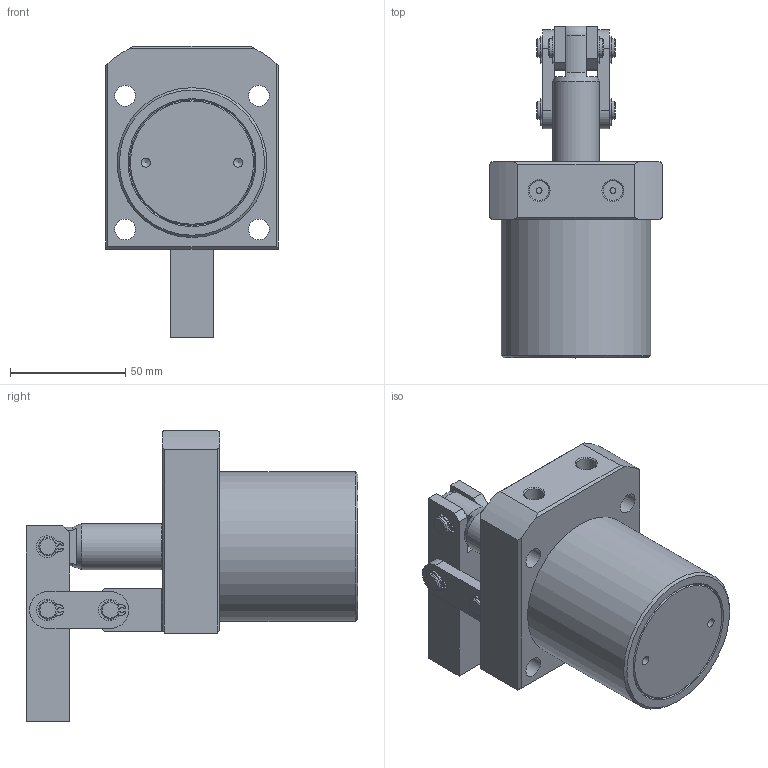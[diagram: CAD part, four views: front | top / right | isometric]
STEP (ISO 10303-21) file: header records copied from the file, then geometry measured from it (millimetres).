
FILE_DESCRIPTION(/* description */ (''),/* implementation_level */ '2;1');
FILE_NAME(/* name */ 'KGG-SG50.stp',/* time_stamp */ '2016-07-19T14:37:10+08:00',/* author */ (''),/* organization */ (''),/* preprocessor_version */ 'ST-DEVELOPER v14',/* originating_system */ 'SIEMENS PLM Software NX 8.0',/* authorisation */ '');
FILE_SCHEMA (('CONFIG_CONTROL_DESIGN'));
Length unit declared in the file: millimetre
Products named in the file (1): KGG-SG50_stp
Bounding box: 75 x 144 x 126.5 mm (x, y, z)
Volume: 410289.4 mm3; surface area: 55291.2 mm2
Topology: 14 solids, 14 shells, 220 faces, 521 edges, 343 vertices
Faces by surface type: plane 120, cylinder 80, cone 18, torus 2
Full cylindrical faces by diameter (mm): 2.5 x2, 4 x2, 8 x6, 8.5 x2, 9 x4, 14 x4, 20 x2, 23.4 x1, 65 x1
Entity records: 6172 total; most frequent: DIRECTION 1092, CARTESIAN_POINT 1079, ORIENTED_EDGE 936, EDGE_CURVE 468, AXIS2_PLACEMENT_3D 417, VERTEX_POINT 332, EDGE_LOOP 284, LINE 258
